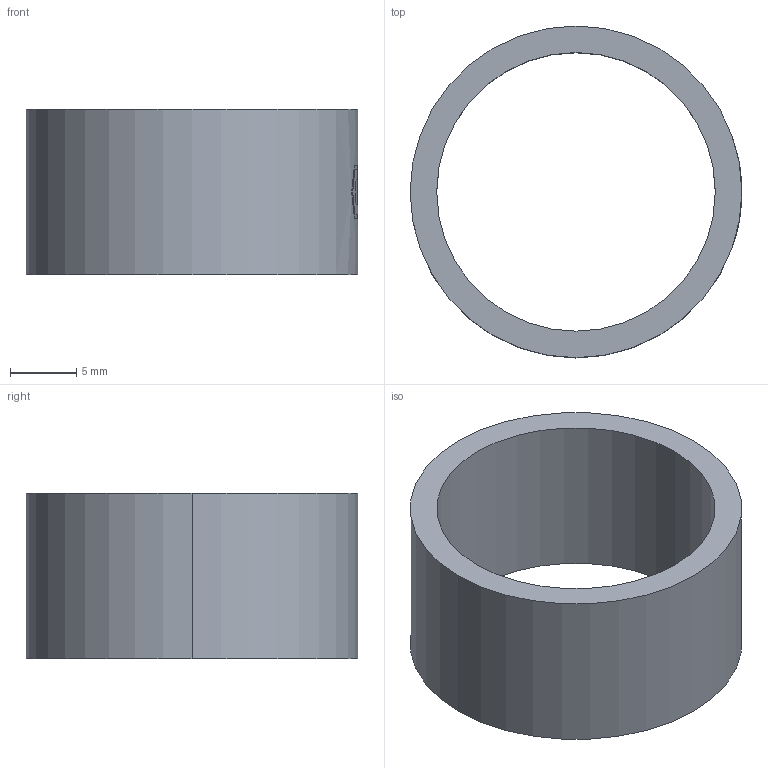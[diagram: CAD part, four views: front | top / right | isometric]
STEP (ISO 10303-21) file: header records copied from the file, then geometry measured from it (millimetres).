
FILE_DESCRIPTION (( 'STEP AP203' ), '1' );
FILE_NAME ('WJ-DM 32.STEP', '2007-02-21T09:01:48', ( ' ' ), ( '' ), 'SwSTEP 2.0', 'SolidWorks 2005278', '' );
FILE_SCHEMA (( 'CONFIG_CONTROL_DESIGN' ));
Length unit declared in the file: millimetre
Products named in the file (1): WJ-DM 32
Bounding box: 25 x 25 x 12.5 mm (x, y, z)
Volume: 1806.1 mm3; surface area: 2096.6 mm2
Topology: 1 solids, 1 shells, 43 faces, 117 edges, 78 vertices
Faces by surface type: plane 36, cylinder 7
Entity records: 1468 total; most frequent: CARTESIAN_POINT 299, ORIENTED_EDGE 234, DIRECTION 221, EDGE_CURVE 117, AXIS2_PLACEMENT_3D 80, VERTEX_POINT 78, VECTOR 61, LINE 61
